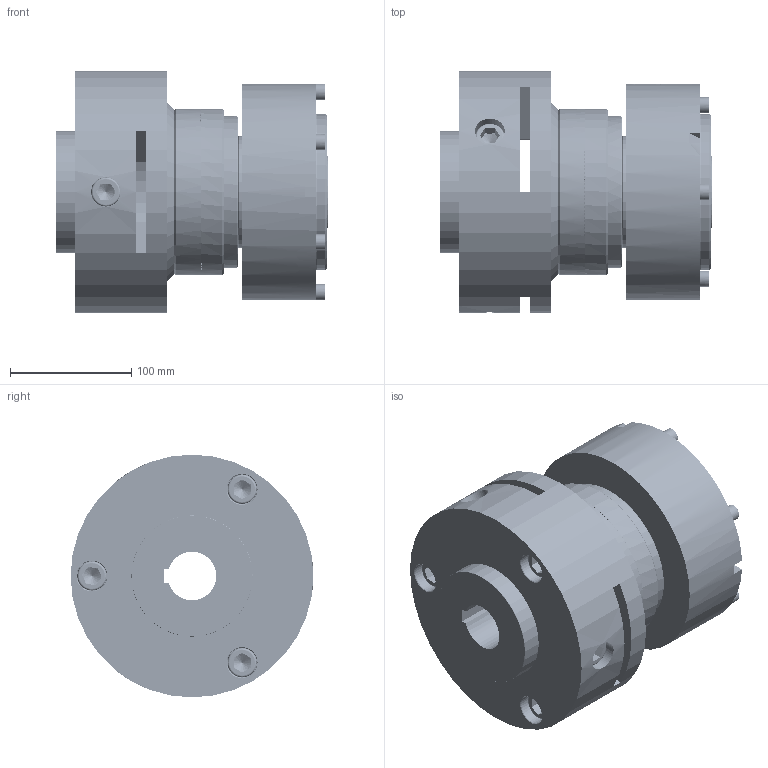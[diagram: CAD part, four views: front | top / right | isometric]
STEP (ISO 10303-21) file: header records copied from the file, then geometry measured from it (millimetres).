
FILE_DESCRIPTION(/* description */ (''),/* implementation_level */ '2;1');
FILE_NAME(/* name */ 'T:\INVENTOR\DISEGNI\03_Friz_Oleod_Pneum_Cil_Stat\03_62 DPG-N\03_62_04_01 DPG-N04\03_62_04_01 DPG-N 04 F40-40@STEP.stp',/* time_stamp */ '2022-10-25T15:35:19+02:00',/* author */ ('w.sartori'),/* organization */ (''),/* preprocessor_version */ 'ST-DEVELOPER v18.1',/* originating_system */ 'Autodesk Inventor 2021',/* authorisation */ '');
FILE_SCHEMA (('AUTOMOTIVE_DESIGN { 1 0 10303 214 3 1 1 }'));
Products named in the file (1): 03_62_04_01 DPG-N 04 F40-40
Bounding box: 224 x 200 x 200 mm (x, y, z)
Volume: 4054474.9 mm3; surface area: 619849.6 mm2
Topology: 2 solids, 39 shells, 1699 faces, 5246 edges, 3448 vertices
Faces by surface type: plane 607, cylinder 480, torus 324, bspline 150, cone 95, sphere 43
Full cylindrical faces by diameter (mm): 2.5 x4, 3.5 x4, 4.917 x6, 5 x3, 5.25 x6, 6 x6, 6.5 x6, 6.647 x6, 8 x7, 8.5 x6, 8.566 x1, 9.5 x20, 10 x6, 10.5 x6, 13 x6, 13.835 x6, 16 x6, 16.5 x6, 24 x6, 24.5 x6, 49 x1, 57 x2, 60 x7, 62.5 x1, 70 x1, 71.2 x3, 72 x2, 76 x2, 78.5 x1, 80 x2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
Entity records: 103311 total; most frequent: CARTESIAN_POINT 54572, ORIENTED_EDGE 10254, DIRECTION 9866, EDGE_CURVE 5127, AXIS2_PLACEMENT_3D 4284, VERTEX_POINT 3447, CIRCLE 2438, EDGE_LOOP 2072
